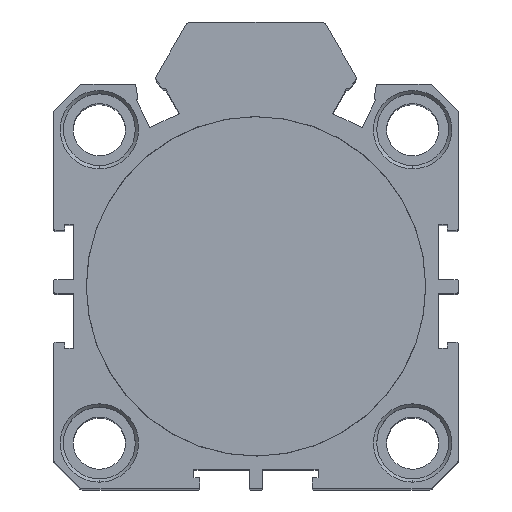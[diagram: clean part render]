
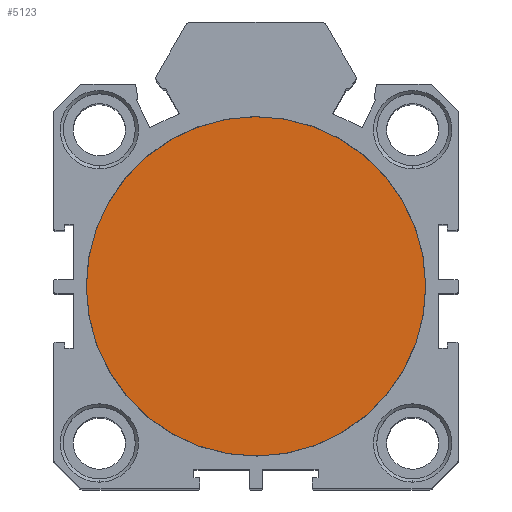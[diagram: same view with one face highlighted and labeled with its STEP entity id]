
A CAD part, top view. The second image highlights one B-rep face of the part: STEP entity #5123.
In plain terms, the highlighted planar face has unit normal (0, 0, 1) as drawn and (-1, 0, 0) by its records, which use the part's own axes.
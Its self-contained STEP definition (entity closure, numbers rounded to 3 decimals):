
#534 = FACE_OUTER_BOUND ( 'NONE', #3164, .T. ) ;
#1689 = VERTEX_POINT ( 'NONE', #4906 ) ;
#1770 = VERTEX_POINT ( 'NONE', #2790 ) ;
#1778 = EDGE_CURVE ( 'NONE', #1689, #1770, #4652, .T. ) ;
#1931 = AXIS2_PLACEMENT_3D ( 'NONE', #3398, #3445, #3460 ) ;
#2472 = CARTESIAN_POINT ( 'NONE',  ( -0.5, 0., 0. ) ) ;
#2740 = AXIS2_PLACEMENT_3D ( 'NONE', #4882, #4929, #4950 ) ;
#2790 = CARTESIAN_POINT ( 'NONE',  ( -0.5, 26., 0. ) ) ;
#3164 = EDGE_LOOP ( 'NONE', ( #8311, #4714 ) ) ;
#3333 = PLANE ( 'NONE',  #1931 ) ;
#3398 = CARTESIAN_POINT ( 'NONE',  ( -0.5, 0., 0. ) ) ;
#3445 = DIRECTION ( 'NONE',  ( -1., 0., 0. ) ) ;
#3460 = DIRECTION ( 'NONE',  ( 0., 0., 1. ) ) ;
#4652 = CIRCLE ( 'NONE', #7210, 26. ) ;
#4714 = ORIENTED_EDGE ( 'NONE', *, *, #5988, .T. ) ;
#4882 = CARTESIAN_POINT ( 'NONE',  ( -0.5, 0., 0. ) ) ;
#4906 = CARTESIAN_POINT ( 'NONE',  ( -0.5, -26., 0. ) ) ;
#4929 = DIRECTION ( 'NONE',  ( -1., 0., 0. ) ) ;
#4950 = DIRECTION ( 'NONE',  ( 0., 0., 1. ) ) ;
#5123 = ADVANCED_FACE ( 'NONE', ( #534 ), #3333, .T. ) ;
#5988 = EDGE_CURVE ( 'NONE', #1770, #1689, #6181, .T. ) ;
#6049 = DIRECTION ( 'NONE',  ( -1., 0., 0. ) ) ;
#6063 = DIRECTION ( 'NONE',  ( 0., 0., 1. ) ) ;
#6181 = CIRCLE ( 'NONE', #2740, 26. ) ;
#7210 = AXIS2_PLACEMENT_3D ( 'NONE', #2472, #6049, #6063 ) ;
#8311 = ORIENTED_EDGE ( 'NONE', *, *, #1778, .T. ) ;
